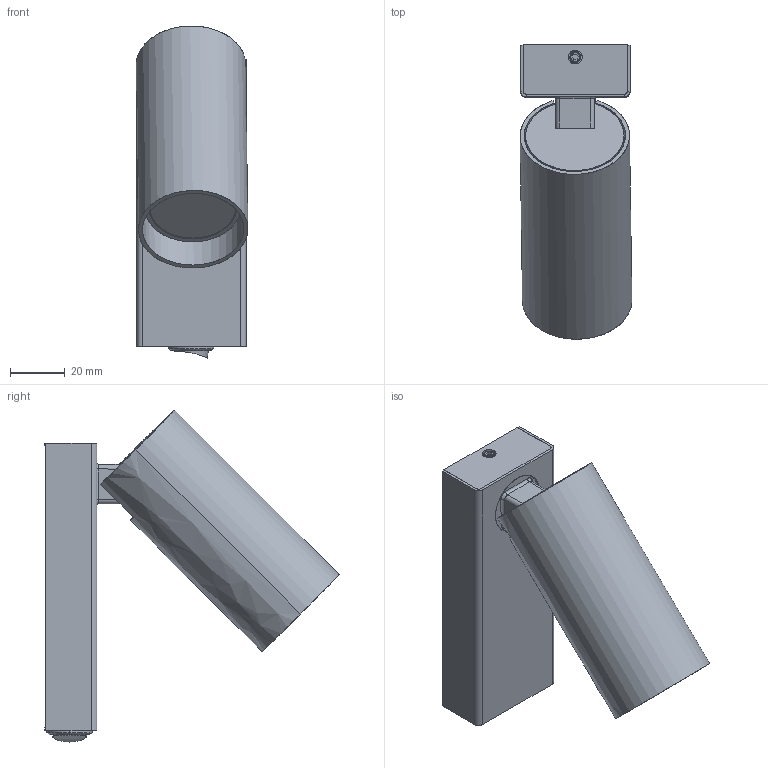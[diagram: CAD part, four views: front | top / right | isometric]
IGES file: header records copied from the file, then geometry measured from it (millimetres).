
Start section: SolidWorks IGES file using analytic representation for surfaces
Global section: file name: Y:\PRODUKT\Modele_3D_WWW\_KOLEKCJE_WWW\FOURTY I kinkiet\Fourty Kinkiet I.IGS; native system: SolidWorks 2024; preprocessor: SolidWorks 2024; author: anna.bielnik; date: 250320.101558; units: millimetre
Bounding box: 40.87 x 107.47 x 121.27 mm (x, y, z)
Surface area: 47814.1 mm2 (no closed solid volume)
Topology: 0 solids, 0 shells, 197 faces, 2604 edges, 2604 vertices
Faces by surface type: bspline 122, revolution 75
